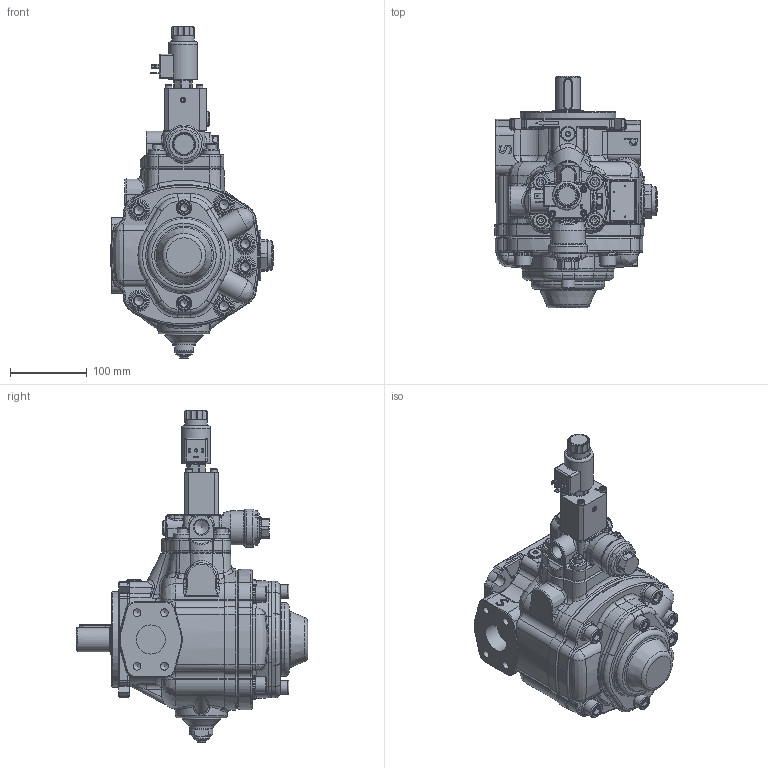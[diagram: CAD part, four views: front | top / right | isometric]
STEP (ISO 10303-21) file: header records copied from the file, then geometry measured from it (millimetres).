
FILE_DESCRIPTION(/* description */ (''),/* implementation_level */ '2;1');
FILE_NAME(/* name */ 'W:\Tecnico\Archivio\Berarma\Dimensioni Pompe\3D Export\Montaggio 3D semplificato\PLP-PHP 2\PHP 2 - A PCS005.stp',/* time_stamp */ '2018-10-09T16:37:30+02:00',/* author */ ('marcop'),/* organization */ (''),/* preprocessor_version */ 'ST-DEVELOPER v17',/* originating_system */ 'Autodesk Inventor 2018',/* authorisation */ '');
FILE_SCHEMA (('AUTOMOTIVE_DESIGN { 1 0 10303 214 3 1 1 }'));
Products named in the file (1): PLP - PHP 2_Shrinkwrap_1
Bounding box: 212.17 x 301.5 x 432.65 mm (x, y, z)
Volume: 5078120.7 mm3; surface area: 444711.9 mm2
Topology: 1 solids, 1 shells, 2248 faces, 5773 edges, 3586 vertices
Faces by surface type: plane 832, cylinder 509, bspline 429, torus 228, cone 212, sphere 38
Full cylindrical faces by diameter (mm): 1.6 x3, 1.7 x4, 2.5 x3, 3.242 x1, 4.3 x1, 8 x1, 8.376 x4, 8.5 x4, 10 x1, 10.106 x4, 12 x2, 13 x4, 14 x1, 15.5 x1, 16.789 x1, 17.805 x1, 17.84 x1, 18 x2, 18.631 x1, 18.999 x2, 19 x5, 19.2 x1, 20 x4, 21 x6, 22 x1, 22.857 x1, 23 x1, 25 x8, 28 x2, 29.21 x1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
Entity records: 84569 total; most frequent: CARTESIAN_POINT 30376, ORIENTED_EDGE 11412, DIRECTION 10214, EDGE_CURVE 5706, AXIS2_PLACEMENT_3D 3965, VERTEX_POINT 3586, EDGE_LOOP 2389, LINE 2284
